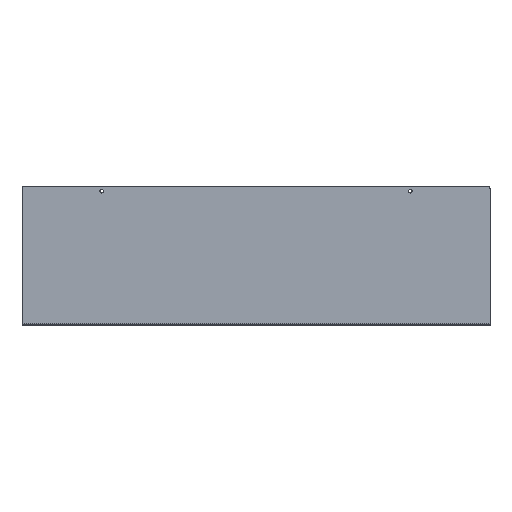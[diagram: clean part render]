
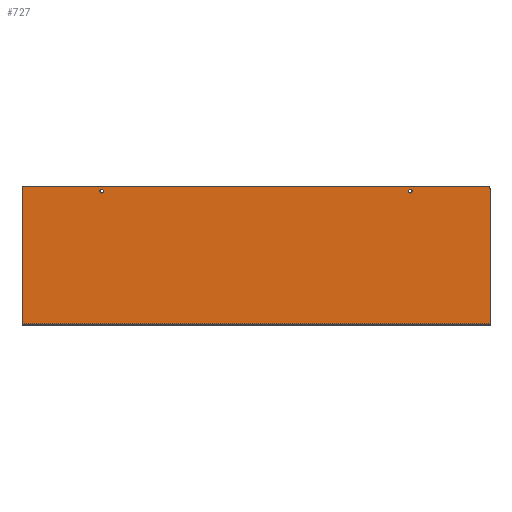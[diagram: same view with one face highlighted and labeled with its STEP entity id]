
A CAD part, top view. The second image highlights one B-rep face of the part: STEP entity #727.
In plain terms, the highlighted planar face has unit normal (0, 0, 1).
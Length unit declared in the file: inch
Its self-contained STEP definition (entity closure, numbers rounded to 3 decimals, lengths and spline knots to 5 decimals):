
#135=CARTESIAN_POINT('',(11.625,3.5,0.055));
#136=VERTEX_POINT('',#135);
#137=CARTESIAN_POINT('',(11.75,3.375,0.055));
#138=VERTEX_POINT('',#137);
#139=CARTESIAN_POINT('',(11.625,3.375,0.055));
#140=DIRECTION('',(0.0,0.0,-1.0));
#141=DIRECTION('',(0.707,0.707,0.0));
#142=AXIS2_PLACEMENT_3D('',#139,#140,#141);
#143=CIRCLE('',#142,0.125);
#144=EDGE_CURVE('',#136,#138,#143,.T.);
#186=CARTESIAN_POINT('',(-11.625,3.5,0.055));
#187=VERTEX_POINT('',#186);
#194=CARTESIAN_POINT('',(-11.625,3.5,0.055));
#195=DIRECTION('',(1.0,0.0,0.0));
#196=VECTOR('',#195,23.25);
#197=LINE('',#194,#196);
#198=EDGE_CURVE('',#187,#136,#197,.T.);
#271=CARTESIAN_POINT('',(-11.75,3.375,0.055));
#272=VERTEX_POINT('',#271);
#273=CARTESIAN_POINT('',(-11.625,3.375,0.055));
#274=DIRECTION('',(0.0,0.0,-1.0));
#275=DIRECTION('',(-0.707,0.707,0.0));
#276=AXIS2_PLACEMENT_3D('',#273,#274,#275);
#277=CIRCLE('',#276,0.125);
#278=EDGE_CURVE('',#272,#187,#277,.T.);
#298=CARTESIAN_POINT('',(-11.75,-3.414,0.055));
#299=VERTEX_POINT('',#298);
#306=CARTESIAN_POINT('',(-11.75,-3.414,0.055));
#307=DIRECTION('',(0.0,1.0,0.0));
#308=VECTOR('',#307,6.789);
#309=LINE('',#306,#308);
#310=EDGE_CURVE('',#299,#272,#309,.T.);
#527=CARTESIAN_POINT('',(-7.8385,3.25,0.055));
#528=VERTEX_POINT('',#527);
#529=CARTESIAN_POINT('',(-7.75,3.25,0.055));
#530=DIRECTION('',(0.0,0.0,-1.0));
#531=DIRECTION('',(1.0,0.0,0.0));
#532=AXIS2_PLACEMENT_3D('',#529,#530,#531);
#533=CIRCLE('',#532,0.0885);
#534=EDGE_CURVE('',#528,#528,#533,.T.);
#547=CARTESIAN_POINT('',(7.6615,3.25,0.055));
#548=VERTEX_POINT('',#547);
#549=CARTESIAN_POINT('',(7.75,3.25,0.055));
#550=DIRECTION('',(0.0,0.0,-1.0));
#551=DIRECTION('',(1.0,0.0,0.0));
#552=AXIS2_PLACEMENT_3D('',#549,#550,#551);
#553=CIRCLE('',#552,0.0885);
#554=EDGE_CURVE('',#548,#548,#553,.T.);
#616=CARTESIAN_POINT('',(11.75,-3.414,0.055));
#617=VERTEX_POINT('',#616);
#681=CARTESIAN_POINT('',(-11.75,-3.414,0.055));
#682=DIRECTION('',(1.0,0.0,0.0));
#683=VECTOR('',#682,23.5);
#684=LINE('',#681,#683);
#685=EDGE_CURVE('',#299,#617,#684,.T.);
#697=CARTESIAN_POINT('',(11.75,3.375,0.055));
#698=DIRECTION('',(0.0,-1.0,0.0));
#699=VECTOR('',#698,6.789);
#700=LINE('',#697,#699);
#701=EDGE_CURVE('',#138,#617,#700,.T.);
#708=CARTESIAN_POINT('',(0.0,0.,0.055));
#709=DIRECTION('',(0.0,0.0,1.0));
#710=DIRECTION('',(1.0,0.0,0.0));
#711=AXIS2_PLACEMENT_3D('',#708,#709,#710);
#712=PLANE('',#711);
#713=ORIENTED_EDGE('',*,*,#144,.F.);
#714=ORIENTED_EDGE('',*,*,#198,.F.);
#715=ORIENTED_EDGE('',*,*,#278,.F.);
#716=ORIENTED_EDGE('',*,*,#310,.F.);
#717=ORIENTED_EDGE('',*,*,#685,.T.);
#718=ORIENTED_EDGE('',*,*,#701,.F.);
#719=EDGE_LOOP('',(#713,#714,#715,#716,#717,#718));
#720=FACE_OUTER_BOUND('',#719,.T.);
#721=ORIENTED_EDGE('',*,*,#534,.T.);
#722=EDGE_LOOP('',(#721));
#723=FACE_BOUND('',#722,.T.);
#724=ORIENTED_EDGE('',*,*,#554,.T.);
#725=EDGE_LOOP('',(#724));
#726=FACE_BOUND('',#725,.T.);
#727=ADVANCED_FACE('',(#720,#723,#726),#712,.T.);
